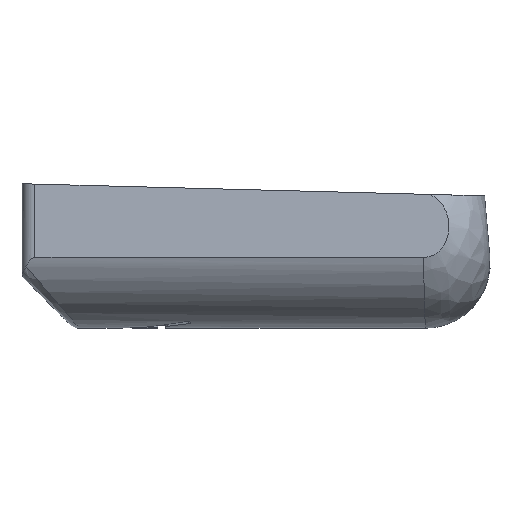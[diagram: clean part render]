
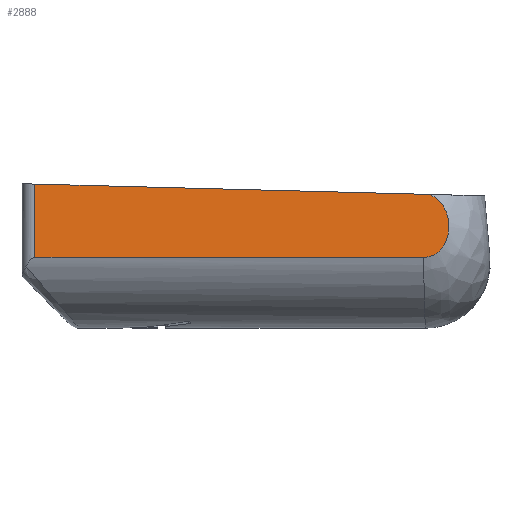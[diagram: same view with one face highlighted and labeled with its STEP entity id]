
A CAD part, left-side view. The second image highlights one B-rep face of the part: STEP entity #2888.
In plain terms, the highlighted planar face has unit normal (-0.996, 0, 0.087).
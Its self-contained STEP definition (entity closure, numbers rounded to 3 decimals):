
#26 = VERTEX_POINT ( 'NONE', #451 ) ;
#44 = VERTEX_POINT ( 'NONE', #433 ) ;
#433 = CARTESIAN_POINT ( 'NONE',  ( -6.589, 32., 5.274 ) ) ;
#451 = CARTESIAN_POINT ( 'NONE',  ( -6.658, 1.651, 4.479 ) ) ;
#933 = CARTESIAN_POINT ( 'NONE',  ( -7.083, 1.96, -0.379 ) ) ;
#936 = CARTESIAN_POINT ( 'NONE',  ( -7.083, 2.098, -0.379 ) ) ;
#938 = CARTESIAN_POINT ( 'NONE',  ( -6.586, 33.018, 5.3 ) ) ;
#939 = DIRECTION ( 'NONE',  ( -0.002, -1., -0.026 ) ) ;
#940 = CARTESIAN_POINT ( 'NONE',  ( -7.083, 32., -0.379 ) ) ;
#941 = DIRECTION ( 'NONE',  ( -0.087, 0., -0.996 ) ) ;
#944 = CARTESIAN_POINT ( 'NONE',  ( -7.082, 1.825, -0.363 ) ) ;
#945 = CARTESIAN_POINT ( 'NONE',  ( -7.076, 1.561, -0.298 ) ) ;
#946 = CARTESIAN_POINT ( 'NONE',  ( -7.072, 1.43, -0.249 ) ) ;
#947 = CARTESIAN_POINT ( 'NONE',  ( -7.056, 1.067, -0.063 ) ) ;
#948 = CARTESIAN_POINT ( 'NONE',  ( -7.04, 0.853, 0.117 ) ) ;
#949 = CARTESIAN_POINT ( 'NONE',  ( -7.012, 0.596, 0.434 ) ) ;
#950 = CARTESIAN_POINT ( 'NONE',  ( -7.002, 0.519, 0.549 ) ) ;
#951 = CARTESIAN_POINT ( 'NONE',  ( -6.981, 0.388, 0.788 ) ) ;
#952 = CARTESIAN_POINT ( 'NONE',  ( -6.97, 0.332, 0.912 ) ) ;
#953 = CARTESIAN_POINT ( 'NONE',  ( -6.936, 0.195, 1.297 ) ) ;
#954 = CARTESIAN_POINT ( 'NONE',  ( -6.913, 0.143, 1.565 ) ) ;
#955 = CARTESIAN_POINT ( 'NONE',  ( -6.865, 0.112, 2.11 ) ) ;
#956 = CARTESIAN_POINT ( 'NONE',  ( -6.842, 0.133, 2.382 ) ) ;
#957 = CARTESIAN_POINT ( 'NONE',  ( -6.807, 0.218, 2.78 ) ) ;
#958 = CARTESIAN_POINT ( 'NONE',  ( -6.795, 0.255, 2.912 ) ) ;
#959 = CARTESIAN_POINT ( 'NONE',  ( -6.773, 0.348, 3.167 ) ) ;
#960 = CARTESIAN_POINT ( 'NONE',  ( -6.762, 0.402, 3.291 ) ) ;
#961 = CARTESIAN_POINT ( 'NONE',  ( -6.741, 0.53, 3.528 ) ) ;
#962 = CARTESIAN_POINT ( 'NONE',  ( -6.731, 0.602, 3.642 ) ) ;
#963 = CARTESIAN_POINT ( 'NONE',  ( -6.712, 0.767, 3.86 ) ) ;
#964 = CARTESIAN_POINT ( 'NONE',  ( -6.703, 0.859, 3.963 ) ) ;
#965 = CARTESIAN_POINT ( 'NONE',  ( -6.679, 1.158, 4.239 ) ) ;
#966 = CARTESIAN_POINT ( 'NONE',  ( -6.666, 1.396, 4.389 ) ) ;
#967 = CARTESIAN_POINT ( 'NONE',  ( -6.658, 1.651, 4.479 ) ) ;
#1151 = CARTESIAN_POINT ( 'NONE',  ( -7.083, 32., -0.379 ) ) ;
#1158 = CARTESIAN_POINT ( 'NONE',  ( -7.083, 2.098, -0.379 ) ) ;
#1311 = VECTOR ( 'NONE', #2238, 1000. ) ;
#1312 = LINE ( 'NONE', #2236, #1311 ) ;
#1364 = LINE ( 'NONE', #938, #1367 ) ;
#1366 = LINE ( 'NONE', #940, #1368 ) ;
#1367 = VECTOR ( 'NONE', #939, 1000. ) ;
#1368 = VECTOR ( 'NONE', #941, 1000. ) ;
#1756 = EDGE_CURVE ( 'NONE', #2092, #2099, #1312, .T. ) ;
#1921 = EDGE_CURVE ( 'NONE', #44, #26, #1364, .T. ) ;
#1922 = EDGE_CURVE ( 'NONE', #44, #2092, #1366, .T. ) ;
#1923 = EDGE_CURVE ( 'NONE', #2099, #26, #2412, .T. ) ;
#2092 = VERTEX_POINT ( 'NONE', #1151 ) ;
#2099 = VERTEX_POINT ( 'NONE', #1158 ) ;
#2159 = EDGE_LOOP ( 'NONE', ( #2813, #2814, #2815, #2816 ) ) ;
#2236 = CARTESIAN_POINT ( 'NONE',  ( -7.083, 25., -0.379 ) ) ;
#2238 = DIRECTION ( 'NONE',  ( 0., -1., 0. ) ) ;
#2412 = B_SPLINE_CURVE_WITH_KNOTS ( 'NONE', 3,
 ( #936, #933, #944, #945, #946, #947, #948, #949, #950, #951, #952, #953, #954, #955, #956, #957, #958, #959, #960, #961, #962, #963, #964, #965, #966, #967 ),
 .UNSPECIFIED., .F., .F.,
 ( 4, 2, 2, 2, 2, 2, 2, 2, 2, 2, 2, 2, 4 ),
 ( 0., 0., 0.001, 0.002, 0.002, 0.002, 0.003, 0.004, 0.004, 0.005, 0.005, 0.006, 0.007 ),
 .UNSPECIFIED. ) ;
#2813 = ORIENTED_EDGE ( 'NONE', *, *, #1921, .F. ) ;
#2814 = ORIENTED_EDGE ( 'NONE', *, *, #1922, .T. ) ;
#2815 = ORIENTED_EDGE ( 'NONE', *, *, #1756, .T. ) ;
#2816 = ORIENTED_EDGE ( 'NONE', *, *, #1923, .T. ) ;
#2888 = ADVANCED_FACE ( 'NONE', ( #3266 ), #3721, .T. ) ;
#3115 = AXIS2_PLACEMENT_3D ( 'NONE', #3714, #3723, #3724 ) ;
#3266 = FACE_OUTER_BOUND ( 'NONE', #2159, .T. ) ;
#3714 = CARTESIAN_POINT ( 'NONE',  ( -7.05, 0., 0. ) ) ;
#3721 = PLANE ( 'NONE',  #3115 ) ;
#3723 = DIRECTION ( 'NONE',  ( -0.996, 0., 0.087 ) ) ;
#3724 = DIRECTION ( 'NONE',  ( 0.087, 0., 0.996 ) ) ;
